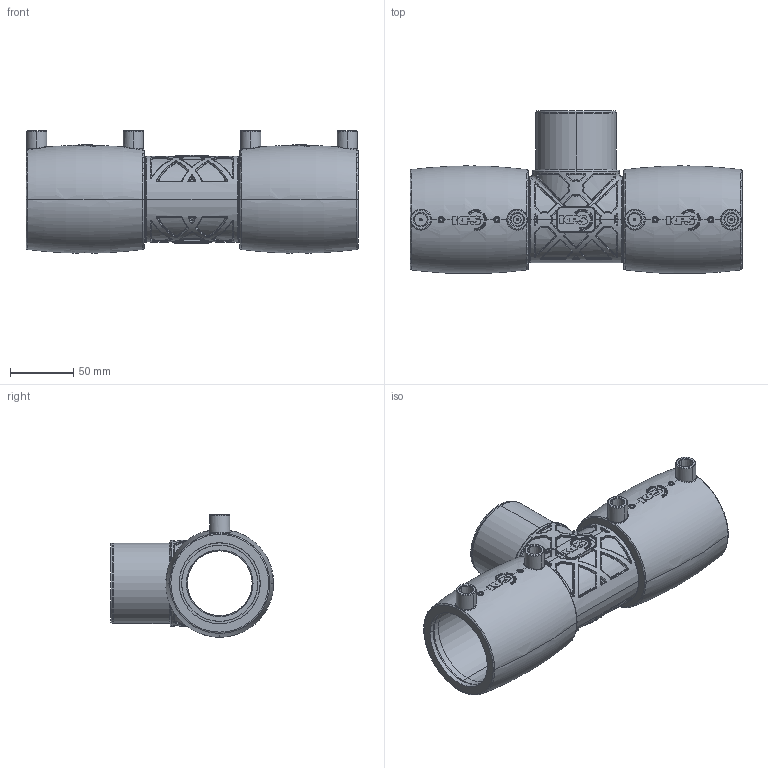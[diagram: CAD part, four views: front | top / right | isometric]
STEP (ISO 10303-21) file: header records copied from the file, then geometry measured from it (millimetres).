
FILE_DESCRIPTION (( 'STEP AP214' ), '1' );
FILE_NAME ('KP_28-63E.STEP', '2019-03-22T13:06:51', ( '' ), ( '' ), 'SwSTEP 2.0', 'SolidWorks 2018', '' );
FILE_SCHEMA (( 'AUTOMOTIVE_DESIGN' ));
Length unit declared in the file: millimetre
Products named in the file (1): KP_28-63E
Bounding box: 261.5 x 128.32 x 96.34 mm (x, y, z)
Volume: 678874 mm3; surface area: 183907.4 mm2
Topology: 1 solids, 9 shells, 4648 faces, 12378 edges, 7862 vertices
Faces by surface type: plane 2974, bspline 686, cylinder 450, torus 232, sphere 232, cone 74
Entity records: 181442 total; most frequent: CARTESIAN_POINT 52026, ORIENTED_EDGE 24500, DIRECTION 19962, EDGE_CURVE 12250, VECTOR 8234, LINE 8234, VERTEX_POINT 7812, AXIS2_PLACEMENT_3D 5864
